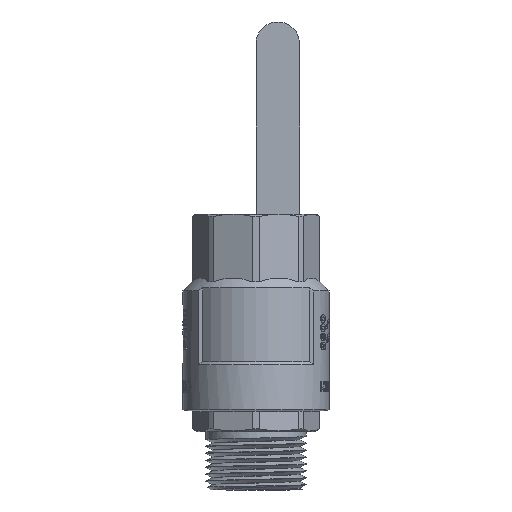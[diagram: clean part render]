
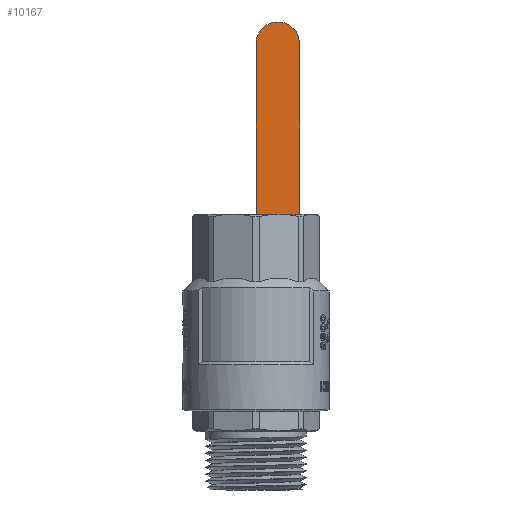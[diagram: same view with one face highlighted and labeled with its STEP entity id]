
A CAD part, front view. The second image highlights one B-rep face of the part: STEP entity #10167.
In plain terms, the highlighted planar face has unit normal (0, -1, 0).
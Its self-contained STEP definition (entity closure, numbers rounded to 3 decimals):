
#302=PLANE('',#10773);
#759=CIRCLE('',#10756,7.25);
#1337=FACE_OUTER_BOUND('',#2020,.T.);
#2020=EDGE_LOOP('',(#9289,#9290,#9291,#9292));
#3217=LINE('',#28212,#3891);
#3228=LINE('',#28246,#3902);
#3235=LINE('',#28266,#3909);
#3891=VECTOR('',#12548,10.);
#3902=VECTOR('',#12581,10.);
#3909=VECTOR('',#12608,10.);
#4894=VERTEX_POINT('',#28209);
#4895=VERTEX_POINT('',#28211);
#4898=VERTEX_POINT('',#28220);
#4907=VERTEX_POINT('',#28244);
#6386=EDGE_CURVE('',#4895,#4894,#3217,.T.);
#6391=EDGE_CURVE('',#4894,#4898,#759,.T.);
#6404=EDGE_CURVE('',#4898,#4907,#3228,.T.);
#6415=EDGE_CURVE('',#4907,#4895,#3235,.T.);
#9289=ORIENTED_EDGE('',*,*,#6386,.T.);
#9290=ORIENTED_EDGE('',*,*,#6391,.T.);
#9291=ORIENTED_EDGE('',*,*,#6404,.T.);
#9292=ORIENTED_EDGE('',*,*,#6415,.T.);
#10167=ADVANCED_FACE('',(#1337),#302,.T.);
#10756=AXIS2_PLACEMENT_3D('',#28221,#12557,#12558);
#10773=AXIS2_PLACEMENT_3D('',#28265,#12606,#12607);
#12548=DIRECTION('',(0.,0.,1.));
#12557=DIRECTION('center_axis',(0.,-1.,0.));
#12558=DIRECTION('ref_axis',(-1.,0.,0.));
#12581=DIRECTION('',(0.,0.,-1.));
#12606=DIRECTION('center_axis',(0.,-1.,0.));
#12607=DIRECTION('ref_axis',(0.,0.,-1.));
#12608=DIRECTION('',(1.,0.,0.));
#28209=CARTESIAN_POINT('',(14.5,61.48,98.599));
#28211=CARTESIAN_POINT('',(14.5,61.48,32.028));
#28212=CARTESIAN_POINT('',(14.5,61.48,66.264));
#28220=CARTESIAN_POINT('',(0.,61.48,98.599));
#28221=CARTESIAN_POINT('Origin',(7.25,61.48,98.599));
#28244=CARTESIAN_POINT('',(0.,61.48,32.028));
#28246=CARTESIAN_POINT('',(0.,61.48,110.365));
#28265=CARTESIAN_POINT('Origin',(0.,61.48,122.13));
#28266=CARTESIAN_POINT('',(0.,61.48,32.028));
